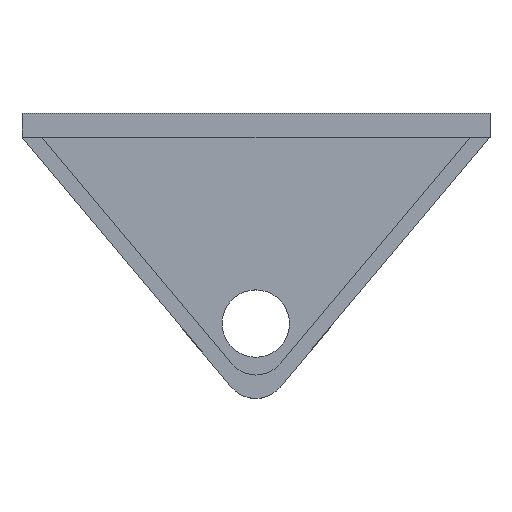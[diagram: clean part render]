
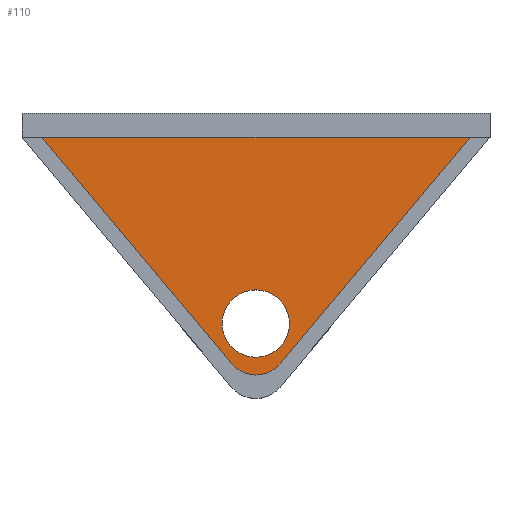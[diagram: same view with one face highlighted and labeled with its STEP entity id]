
A CAD part, top view. The second image highlights one B-rep face of the part: STEP entity #110.
In plain terms, the highlighted planar face has unit normal (0, 0, 1).
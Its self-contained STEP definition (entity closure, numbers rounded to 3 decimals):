
#11 = CARTESIAN_POINT ( 'NONE',  ( -8.104, -20.862, 4.5 ) ) ;
#24 = AXIS2_PLACEMENT_3D ( 'NONE', #293, #416, #558 ) ;
#38 = CARTESIAN_POINT ( 'NONE',  ( -11.19, -15.8, 4.5 ) ) ;
#39 = EDGE_CURVE ( 'NONE', #594, #348, #250, .T. ) ;
#48 = EDGE_LOOP ( 'NONE', ( #553, #473, #100, #301 ) ) ;
#67 = PLANE ( 'NONE',  #475 ) ;
#96 = VECTOR ( 'NONE', #123, 1000. ) ;
#98 = DIRECTION ( 'NONE',  ( 1., 0., 0. ) ) ;
#100 = ORIENTED_EDGE ( 'NONE', *, *, #382, .F. ) ;
#105 = AXIS2_PLACEMENT_3D ( 'NONE', #38, #428, #98 ) ;
#110 = ADVANCED_FACE ( 'NONE', ( #350, #502 ), #67, .T. ) ;
#123 = DIRECTION ( 'NONE',  ( 0.643, -0.766, 0. ) ) ;
#129 = DIRECTION ( 'NONE',  ( -0.643, -0.766, 0. ) ) ;
#136 = CARTESIAN_POINT ( 'NONE',  ( -11.168, -18.291, 4.5 ) ) ;
#168 = CIRCLE ( 'NONE', #24, 4.25 ) ;
#176 = DIRECTION ( 'NONE',  ( 1., 0., 0. ) ) ;
#181 = DIRECTION ( 'NONE',  ( 1., 0., 0. ) ) ;
#189 = VECTOR ( 'NONE', #129, 1000. ) ;
#191 = ORIENTED_EDGE ( 'NONE', *, *, #219, .F. ) ;
#212 = LINE ( 'NONE', #226, #635 ) ;
#219 = EDGE_CURVE ( 'NONE', #640, #412, #168, .T. ) ;
#226 = CARTESIAN_POINT ( 'NONE',  ( 15.861, 7.698, 4.5 ) ) ;
#227 = CARTESIAN_POINT ( 'NONE',  ( 15.861, 7.698, 4.5 ) ) ;
#233 = CARTESIAN_POINT ( 'NONE',  ( -14.233, -20.861, 4.5 ) ) ;
#250 = LINE ( 'NONE', #462, #96 ) ;
#281 = CARTESIAN_POINT ( 'NONE',  ( 15.861, 7.698, 4.5 ) ) ;
#293 = CARTESIAN_POINT ( 'NONE',  ( -11.19, -15.8, 4.5 ) ) ;
#301 = ORIENTED_EDGE ( 'NONE', *, *, #692, .T. ) ;
#325 = CARTESIAN_POINT ( 'NONE',  ( -6.94, -15.8, 4.5 ) ) ;
#348 = VERTEX_POINT ( 'NONE', #233 ) ;
#350 = FACE_BOUND ( 'NONE', #707, .T. ) ;
#368 = EDGE_CURVE ( 'NONE', #348, #663, #651, .T. ) ;
#382 = EDGE_CURVE ( 'NONE', #456, #663, #637, .T. ) ;
#397 = CARTESIAN_POINT ( 'NONE',  ( 0., 0., 4.5 ) ) ;
#399 = CIRCLE ( 'NONE', #105, 4.25 ) ;
#411 = AXIS2_PLACEMENT_3D ( 'NONE', #136, #518, #181 ) ;
#412 = VERTEX_POINT ( 'NONE', #450 ) ;
#416 = DIRECTION ( 'NONE',  ( 0., 0., 1. ) ) ;
#428 = DIRECTION ( 'NONE',  ( 0., 0., 1. ) ) ;
#450 = CARTESIAN_POINT ( 'NONE',  ( -15.44, -15.8, 4.5 ) ) ;
#456 = VERTEX_POINT ( 'NONE', #227 ) ;
#462 = CARTESIAN_POINT ( 'NONE',  ( -38.182, 7.698, 4.5 ) ) ;
#473 = ORIENTED_EDGE ( 'NONE', *, *, #368, .T. ) ;
#475 = AXIS2_PLACEMENT_3D ( 'NONE', #397, #515, #176 ) ;
#478 = CARTESIAN_POINT ( 'NONE',  ( -38.182, 7.698, 4.5 ) ) ;
#502 = FACE_OUTER_BOUND ( 'NONE', #48, .T. ) ;
#515 = DIRECTION ( 'NONE',  ( 0., 0., 1. ) ) ;
#518 = DIRECTION ( 'NONE',  ( 0., 0., 1. ) ) ;
#539 = EDGE_CURVE ( 'NONE', #412, #640, #399, .T. ) ;
#553 = ORIENTED_EDGE ( 'NONE', *, *, #39, .T. ) ;
#558 = DIRECTION ( 'NONE',  ( 1., 0., 0. ) ) ;
#581 = ORIENTED_EDGE ( 'NONE', *, *, #539, .F. ) ;
#594 = VERTEX_POINT ( 'NONE', #478 ) ;
#635 = VECTOR ( 'NONE', #678, 1000. ) ;
#637 = LINE ( 'NONE', #281, #189 ) ;
#640 = VERTEX_POINT ( 'NONE', #325 ) ;
#651 = CIRCLE ( 'NONE', #411, 4. ) ;
#663 = VERTEX_POINT ( 'NONE', #11 ) ;
#678 = DIRECTION ( 'NONE',  ( -1., 0., 0. ) ) ;
#692 = EDGE_CURVE ( 'NONE', #456, #594, #212, .T. ) ;
#707 = EDGE_LOOP ( 'NONE', ( #581, #191 ) ) ;
